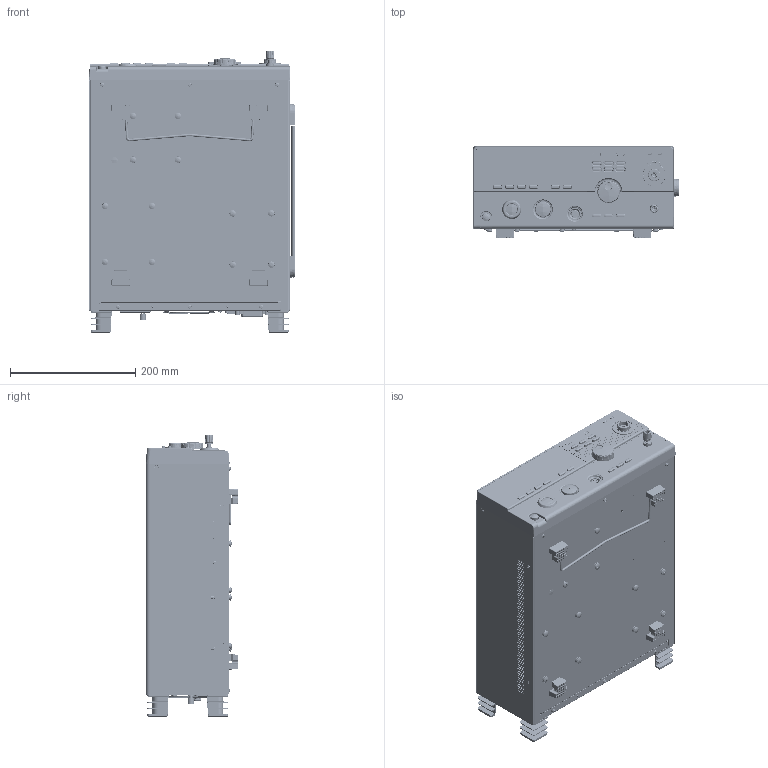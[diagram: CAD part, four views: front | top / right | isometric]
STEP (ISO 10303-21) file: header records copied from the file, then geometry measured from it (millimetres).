
FILE_DESCRIPTION((''),'2;1');
FILE_NAME('GPT9000_ASM_ASM','2019-09-04T13:13:36',('shane_wang'),(''),'CREO PARAMETRIC BY PTC INC, 2019080','CREO PARAMETRIC BY PTC INC, 2019080','');
FILE_SCHEMA(('CONFIG_CONTROL_DESIGN'));
Products named in the file (130): GPT9000_FRONT_ASM_SKEL; 63FP-SG100801; INSERT-CU-9000; 63FP-SG100801_ASM; LCD_VG240641; GFP-230XXX-3XX0X-20; GPT9000_MODEL_NP-A; 63TS-OG10010; 51PI-625NP3A; 4IN1_HVOUT_SCREW; NUT-M6; 4IN1_HVOUT_PNP-S_ASM; KEYSWITCH; REMOTE_SOCKET_YE0506; 40WA-S2BXHA01; GFP-230XXX-3XX0X-12; CONNECTOR_2LINE; KEYSWITCH_PCB_ASM_ASM; 5004-130G010; ENCODE-SW-15; GFP-230XXX-3XX0X-26; GFP-230XXX-3XX0X-8; LED-RIGHT; GPT9000_BUTTON1_PCB_ASM_ASM; SO-M3-10; 62PT-900FP101_ASM_ASM; 5005-350G0101; 57RB-40G08101; TERMINAL_SHAFT_S; TERMINAL_HEAD_S; TERMINAL_CLIP1_S; TERMINAL_CLIP2_S; NUT_M4; POLETERMINAL_B_S_ASM; GPT9000_BUTTON2_PCB; 57RB-40G08201; GPT9000_BUTTON2_PCB-ASM_ASM; 63LB-BR100101; 63LB-BG100101; GPI-815_KNOB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
Assembly tree (259 placements, depth 5):
  GPT9000_ASM_ASM
    GPT9000_FRONT_ASM_ASM
      GPT9000_FRONT_ASM_SKEL
      GPT9000_F_ASM-A_ASM
        63FP-SG100801_ASM
          63FP-SG100801
          INSERT-CU-9000  x7
        LCD_VG240641
        GFP-230XXX-3XX0X-20
        GPT9000_MODEL_NP-A
        4IN1_HVOUT_PNP-S_ASM
          63TS-OG10010
          51PI-625NP3A
          4IN1_HVOUT_SCREW
          NUT-M6  x2
        KEYSWITCH_PCB_ASM_ASM
          KEYSWITCH  x2
          REMOTE_SOCKET_YE0506
          40WA-S2BXHA01
          GFP-230XXX-3XX0X-12
          CONNECTOR_2LINE
        5004-130G010
        GPT9000_BUTTON1_PCB_ASM_ASM
          ENCODE-SW-15
          GFP-230XXX-3XX0X-26
          GFP-230XXX-3XX0X-12
          GFP-230XXX-3XX0X-8
          GFP-230XXX-3XX0X-20
          LED-RIGHT  x7
        62PT-900FP101_ASM_ASM
          SO-M3-10  x4
        5005-350G0101
        57RB-40G08101
        POLETERMINAL_B_S_ASM
          TERMINAL_SHAFT_S
          TERMINAL_HEAD_S
          TERMINAL_CLIP1_S
          TERMINAL_CLIP2_S
          NUT_M4  x2
        GPT9000_BUTTON2_PCB-ASM_ASM
          GPT9000_BUTTON2_PCB
          57RB-40G08201
          GFP-230XXX-3XX0X-8
        63LB-BR100101
        63LB-BG100101
        GPI-815_KNOB
        GPI-815_KNOB-G
        SPRING-2
        5440-10800101
        MANI_BOARD_PCS-ASM_ASM
          GFP-230XXX-3XX0X-12
          GFP-230XXX-3XX0X-8
          GFP-230XXX-3XX0X-26
          GFP-230XXX-3XX0X-20
        GPT9803_FUNCTION_NP
        BMS-LOCK-3X6  x2
        57RG-20B02601  x2
        57RG-20B02701  x2
        GPT-9600-RUBBER-HOLD  x3
      BMS-3X8  x2
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Bounding box: 329.7 x 147.7 x 452 mm (x, y, z)
Volume: 1018517.5 mm3; surface area: 1324639.6 mm2
Topology: 242 solids, 242 shells, 19113 faces, 48662 edges, 30918 vertices
Faces by surface type: plane 11179, cylinder 5404, cone 1220, bspline 662, torus 417, sphere 213, extrusion 17, revolution 1
Entity records: 388949 total; most frequent: CARTESIAN_POINT 125355, ORIENTED_EDGE 54516, DIRECTION 53667, EDGE_CURVE 27258, AXIS2_PLACEMENT_3D 18312, VERTEX_POINT 17366, VECTOR 17042, LINE 17025
